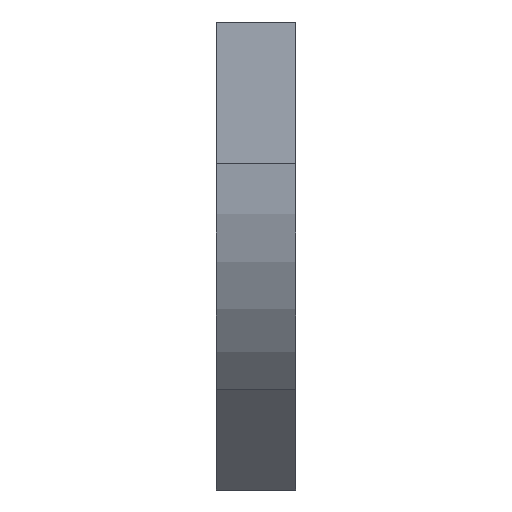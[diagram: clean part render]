
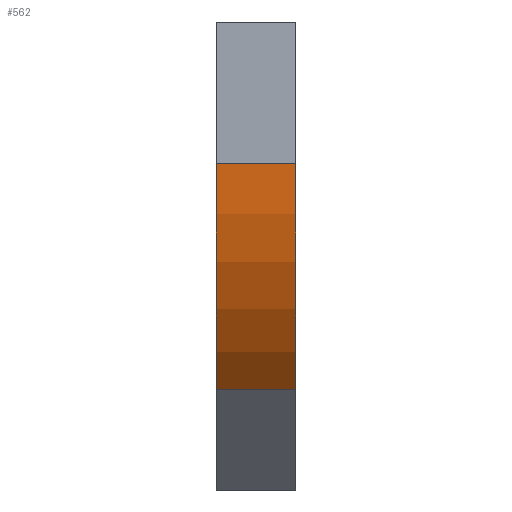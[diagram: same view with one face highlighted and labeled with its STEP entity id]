
A CAD part, left-side view. The second image highlights one B-rep face of the part: STEP entity #562.
In plain terms, the highlighted cylindrical face has radius 300 mm (diameter 600 mm), a partial arc.
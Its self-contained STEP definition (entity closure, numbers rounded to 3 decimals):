
#64 = ORIENTED_EDGE ( 'NONE', *, *, #246, .F. ) ;
#133 = CARTESIAN_POINT ( 'NONE',  ( 87.868, 0., -344.975 ) ) ;
#159 = DIRECTION ( 'NONE',  ( 0., -1., 0. ) ) ;
#165 = DIRECTION ( 'NONE',  ( 0., 0., -1. ) ) ;
#183 = DIRECTION ( 'NONE',  ( -1., 0., 0. ) ) ;
#246 = EDGE_CURVE ( 'NONE', #1379, #1491, #947, .T. ) ;
#254 = EDGE_CURVE ( 'NONE', #287, #442, #1093, .T. ) ;
#274 = CARTESIAN_POINT ( 'NONE',  ( 300., 75., -132.843 ) ) ;
#287 = VERTEX_POINT ( 'NONE', #1349 ) ;
#326 = AXIS2_PLACEMENT_3D ( 'NONE', #600, #159, #165 ) ;
#365 = DIRECTION ( 'NONE',  ( 0., -1., 0. ) ) ;
#442 = VERTEX_POINT ( 'NONE', #133 ) ;
#487 = ORIENTED_EDGE ( 'NONE', *, *, #254, .T. ) ;
#535 = EDGE_CURVE ( 'NONE', #1379, #287, #1812, .T. ) ;
#562 = ADVANCED_FACE ( 'NONE', ( #1597 ), #1183, .T. ) ;
#600 = CARTESIAN_POINT ( 'NONE',  ( 300., 0., -132.843 ) ) ;
#657 = CARTESIAN_POINT ( 'NONE',  ( 0., 0., -132.843 ) ) ;
#747 = VECTOR ( 'NONE', #1521, 1000. ) ;
#783 = CIRCLE ( 'NONE', #961, 300. ) ;
#945 = CARTESIAN_POINT ( 'NONE',  ( 87.868, 0., -344.975 ) ) ;
#947 = LINE ( 'NONE', #657, #747 ) ;
#961 = AXIS2_PLACEMENT_3D ( 'NONE', #1221, #1197, #183 ) ;
#1093 = LINE ( 'NONE', #945, #1545 ) ;
#1183 = CYLINDRICAL_SURFACE ( 'NONE', #326, 300. ) ;
#1197 = DIRECTION ( 'NONE',  ( 0., -1., 0. ) ) ;
#1221 = CARTESIAN_POINT ( 'NONE',  ( 300., 0., -132.843 ) ) ;
#1349 = CARTESIAN_POINT ( 'NONE',  ( 87.868, 75., -344.975 ) ) ;
#1379 = VERTEX_POINT ( 'NONE', #1572 ) ;
#1399 = DIRECTION ( 'NONE',  ( -1., 0., 0. ) ) ;
#1427 = EDGE_CURVE ( 'NONE', #1491, #442, #783, .T. ) ;
#1469 = EDGE_LOOP ( 'NONE', ( #1823, #64, #1614, #487 ) ) ;
#1491 = VERTEX_POINT ( 'NONE', #1660 ) ;
#1521 = DIRECTION ( 'NONE',  ( 0., -1., 0. ) ) ;
#1545 = VECTOR ( 'NONE', #365, 1000. ) ;
#1572 = CARTESIAN_POINT ( 'NONE',  ( 0., 75., -132.843 ) ) ;
#1575 = AXIS2_PLACEMENT_3D ( 'NONE', #274, #1702, #1399 ) ;
#1597 = FACE_OUTER_BOUND ( 'NONE', #1469, .T. ) ;
#1614 = ORIENTED_EDGE ( 'NONE', *, *, #535, .T. ) ;
#1660 = CARTESIAN_POINT ( 'NONE',  ( 0., 0., -132.843 ) ) ;
#1702 = DIRECTION ( 'NONE',  ( 0., -1., 0. ) ) ;
#1812 = CIRCLE ( 'NONE', #1575, 300. ) ;
#1823 = ORIENTED_EDGE ( 'NONE', *, *, #1427, .F. ) ;
